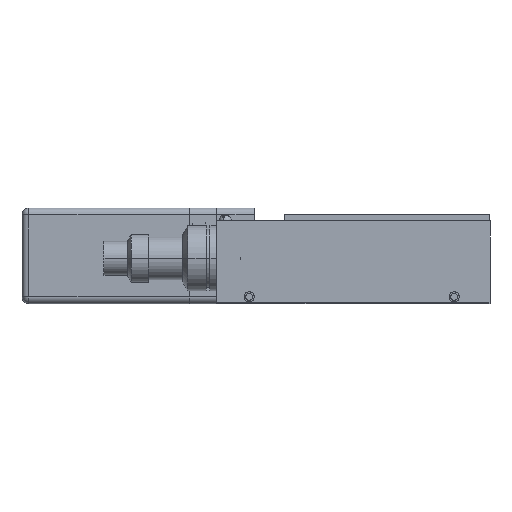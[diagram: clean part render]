
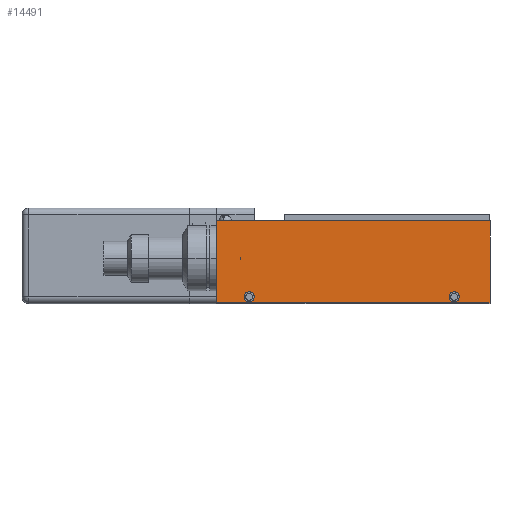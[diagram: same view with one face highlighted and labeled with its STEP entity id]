
A CAD part, left-side view. The second image highlights one B-rep face of the part: STEP entity #14491.
In plain terms, the highlighted planar face has unit normal (-1, 0, 0).
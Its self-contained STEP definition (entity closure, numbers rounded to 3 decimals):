
#3 = ORIENTED_EDGE ( 'NONE', *, *, #1250, .F. ) ;
#56 = VERTEX_POINT ( 'NONE', #4635 ) ;
#295 = AXIS2_PLACEMENT_3D ( 'NONE', #3338, #10356, #10304 ) ;
#404 = CIRCLE ( 'NONE', #1408, 1.5 ) ;
#690 = ORIENTED_EDGE ( 'NONE', *, *, #11173, .T. ) ;
#876 = EDGE_CURVE ( 'NONE', #56, #12246, #12145, .T. ) ;
#1088 = CARTESIAN_POINT ( 'NONE',  ( -62.717, -45.183, 86.25 ) ) ;
#1178 = EDGE_CURVE ( 'NONE', #6168, #6673, #11239, .T. ) ;
#1214 = DIRECTION ( 'NONE',  ( 0., 0., -1. ) ) ;
#1250 = EDGE_CURVE ( 'NONE', #12982, #1475, #404, .T. ) ;
#1261 = DIRECTION ( 'NONE',  ( 0., -1., 0. ) ) ;
#1308 = CARTESIAN_POINT ( 'NONE',  ( -62.717, 25.317, 88. ) ) ;
#1408 = AXIS2_PLACEMENT_3D ( 'NONE', #13033, #10649, #7317 ) ;
#1475 = VERTEX_POINT ( 'NONE', #3012 ) ;
#2135 = FACE_OUTER_BOUND ( 'NONE', #6045, .T. ) ;
#2141 = CARTESIAN_POINT ( 'NONE',  ( -62.717, -45.183, 110.25 ) ) ;
#2210 = PLANE ( 'NONE',  #12909 ) ;
#2338 = VECTOR ( 'NONE', #8382, 1000. ) ;
#2991 = LINE ( 'NONE', #6557, #4267 ) ;
#3012 = CARTESIAN_POINT ( 'NONE',  ( -62.717, -36.183, 88. ) ) ;
#3215 = CARTESIAN_POINT ( 'NONE',  ( -62.717, 34.817, 86.25 ) ) ;
#3338 = CARTESIAN_POINT ( 'NONE',  ( -62.717, -34.683, 88. ) ) ;
#3355 = DIRECTION ( 'NONE',  ( 0., 1., 0. ) ) ;
#3565 = CARTESIAN_POINT ( 'NONE',  ( -62.717, -33.183, 88. ) ) ;
#3670 = EDGE_LOOP ( 'NONE', ( #12164, #13663 ) ) ;
#4114 = VECTOR ( 'NONE', #12427, 1000. ) ;
#4267 = VECTOR ( 'NONE', #4298, 1000. ) ;
#4295 = VERTEX_POINT ( 'NONE', #8283 ) ;
#4298 = DIRECTION ( 'NONE',  ( 0., 0., -1. ) ) ;
#4635 = CARTESIAN_POINT ( 'NONE',  ( -62.717, 34.817, 110.25 ) ) ;
#4759 = ORIENTED_EDGE ( 'NONE', *, *, #10289, .T. ) ;
#5006 = ORIENTED_EDGE ( 'NONE', *, *, #6872, .F. ) ;
#5051 = CARTESIAN_POINT ( 'NONE',  ( -62.717, -45.183, 110.25 ) ) ;
#5733 = CIRCLE ( 'NONE', #295, 1.5 ) ;
#5851 = CARTESIAN_POINT ( 'NONE',  ( -62.717, 34.817, 110.25 ) ) ;
#6045 = EDGE_LOOP ( 'NONE', ( #690, #5006, #12129, #4759 ) ) ;
#6168 = VERTEX_POINT ( 'NONE', #13526 ) ;
#6557 = CARTESIAN_POINT ( 'NONE',  ( -62.717, -45.183, 110.25 ) ) ;
#6673 = VERTEX_POINT ( 'NONE', #9633 ) ;
#6872 = EDGE_CURVE ( 'NONE', #12246, #4295, #2991, .T. ) ;
#7317 = DIRECTION ( 'NONE',  ( 0., -1., 0. ) ) ;
#8283 = CARTESIAN_POINT ( 'NONE',  ( -62.717, -45.183, 86.25 ) ) ;
#8325 = AXIS2_PLACEMENT_3D ( 'NONE', #1308, #10544, #1261 ) ;
#8382 = DIRECTION ( 'NONE',  ( 0., -1., 0. ) ) ;
#8556 = LINE ( 'NONE', #5851, #11784 ) ;
#9028 = DIRECTION ( 'NONE',  ( -1., 0., 0. ) ) ;
#9633 = CARTESIAN_POINT ( 'NONE',  ( -62.717, 23.817, 88. ) ) ;
#9936 = EDGE_CURVE ( 'NONE', #1475, #12982, #5733, .T. ) ;
#10171 = DIRECTION ( 'NONE',  ( 1., 0., 0. ) ) ;
#10230 = VERTEX_POINT ( 'NONE', #3215 ) ;
#10289 = EDGE_CURVE ( 'NONE', #56, #10230, #8556, .T. ) ;
#10304 = DIRECTION ( 'NONE',  ( 0., -1., 0. ) ) ;
#10313 = CIRCLE ( 'NONE', #12410, 1.5 ) ;
#10356 = DIRECTION ( 'NONE',  ( -1., 0., 0. ) ) ;
#10544 = DIRECTION ( 'NONE',  ( -1., 0., 0. ) ) ;
#10649 = DIRECTION ( 'NONE',  ( -1., 0., 0. ) ) ;
#10678 = ORIENTED_EDGE ( 'NONE', *, *, #9936, .F. ) ;
#11035 = FACE_BOUND ( 'NONE', #13330, .T. ) ;
#11173 = EDGE_CURVE ( 'NONE', #10230, #4295, #11758, .T. ) ;
#11239 = CIRCLE ( 'NONE', #8325, 1.5 ) ;
#11287 = DIRECTION ( 'NONE',  ( 0., -1., 0. ) ) ;
#11365 = CARTESIAN_POINT ( 'NONE',  ( -62.717, -45.183, 110.25 ) ) ;
#11758 = LINE ( 'NONE', #1088, #4114 ) ;
#11784 = VECTOR ( 'NONE', #1214, 1000. ) ;
#12129 = ORIENTED_EDGE ( 'NONE', *, *, #876, .F. ) ;
#12145 = LINE ( 'NONE', #5051, #2338 ) ;
#12154 = EDGE_CURVE ( 'NONE', #6673, #6168, #10313, .T. ) ;
#12164 = ORIENTED_EDGE ( 'NONE', *, *, #12154, .F. ) ;
#12246 = VERTEX_POINT ( 'NONE', #2141 ) ;
#12410 = AXIS2_PLACEMENT_3D ( 'NONE', #14645, #9028, #11287 ) ;
#12427 = DIRECTION ( 'NONE',  ( 0., -1., 0. ) ) ;
#12909 = AXIS2_PLACEMENT_3D ( 'NONE', #11365, #10171, #3355 ) ;
#12982 = VERTEX_POINT ( 'NONE', #3565 ) ;
#13033 = CARTESIAN_POINT ( 'NONE',  ( -62.717, -34.683, 88. ) ) ;
#13330 = EDGE_LOOP ( 'NONE', ( #10678, #3 ) ) ;
#13526 = CARTESIAN_POINT ( 'NONE',  ( -62.717, 26.817, 88. ) ) ;
#13663 = ORIENTED_EDGE ( 'NONE', *, *, #1178, .F. ) ;
#13747 = FACE_BOUND ( 'NONE', #3670, .T. ) ;
#14491 = ADVANCED_FACE ( 'NONE', ( #11035, #13747, #2135 ), #2210, .F. ) ;
#14645 = CARTESIAN_POINT ( 'NONE',  ( -62.717, 25.317, 88. ) ) ;
